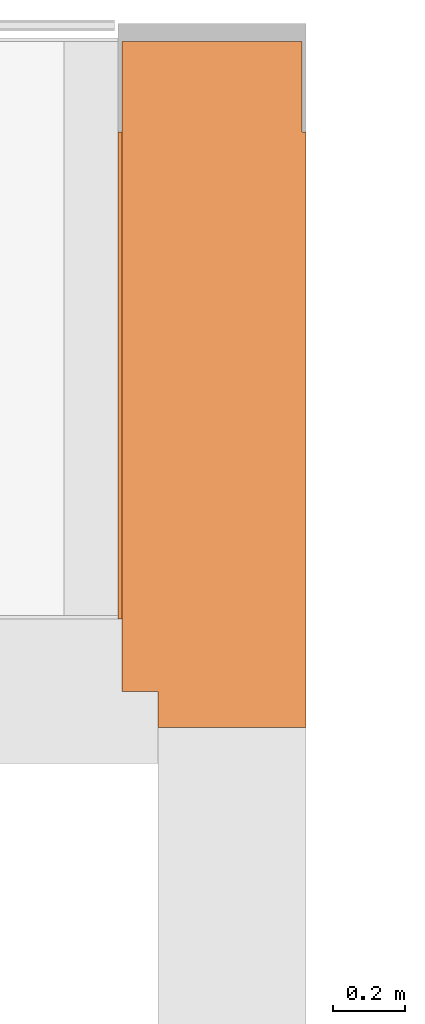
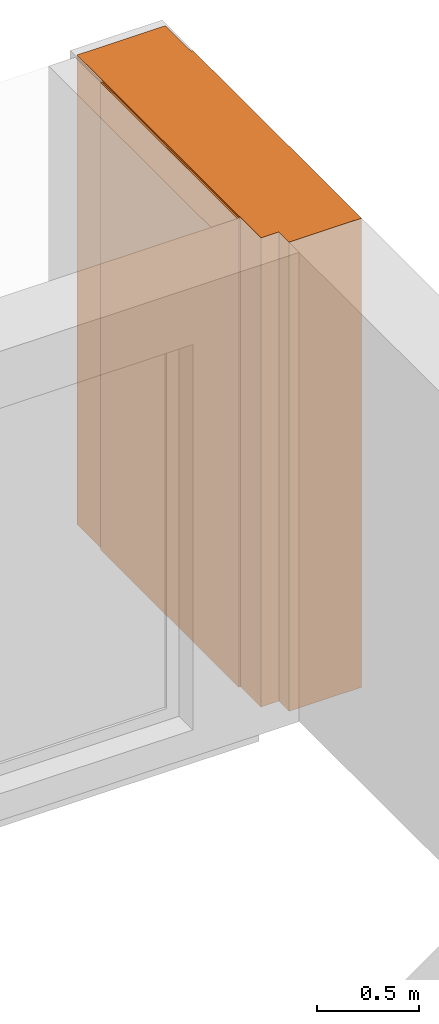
# One storey, part 61 of 61: 1 proxy, 1 opening.
"""IFC2X3 building model written with IfcOpenShell, lengths in millimetres."""

from ifc_helpers import new_model, entity, si_unit, converted_unit, derived_unit, money_unit, direction, frame, origin_with_axes, origin_2d_with_axis, place, context, subcontext, project, spatial, rectangle, extrude, faceted_brep, material, material_list, type_object, element, save


model = new_model("IFC2X3")

# Units and contexts
model_context = context("Model", 3, precision=0.01, world=origin_with_axes(), true_north=direction((0.34421633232, 0.938890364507)))
body_context = subcontext(model_context, "Body", "Model", "MODEL_VIEW")
ifc_project = project(units=[si_unit("LENGTHUNIT", "METRE", prefix="MILLI"), si_unit("AREAUNIT", "SQUARE_METRE"), si_unit("VOLUMEUNIT", "CUBIC_METRE"), converted_unit("PLANEANGLEUNIT", "DEGREE", entity("IfcPlaneAngleMeasure", 0.0174532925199), si_unit("PLANEANGLEUNIT", "RADIAN"), dimensions=[0, 0, 0, 0, 0, 0, 0]), si_unit("SOLIDANGLEUNIT", "STERADIAN"), money_unit("USD"), converted_unit("TIMEUNIT", "Year", entity("IfcTimeMeasure", 31556926.0), si_unit("TIMEUNIT", "SECOND"), dimensions=[0, 0, 1, 0, 0, 0, 0]), si_unit("MASSUNIT", "GRAM", prefix="KILO"), si_unit("THERMODYNAMICTEMPERATUREUNIT", "DEGREE_CELSIUS"), si_unit("LUMINOUSINTENSITYUNIT", "LUMEN"), si_unit("ENERGYUNIT", "JOULE", prefix="MEGA"), derived_unit("THERMALCONDUCTANCEUNIT", [(si_unit("POWERUNIT", "WATT"), 1), (si_unit("LENGTHUNIT", "METRE"), -1), (si_unit("THERMODYNAMICTEMPERATUREUNIT", "KELVIN"), -1)]), derived_unit("SPECIFICHEATCAPACITYUNIT", [(si_unit("ENERGYUNIT", "JOULE"), 1), (si_unit("MASSUNIT", "GRAM", prefix="KILO"), -1), (si_unit("THERMODYNAMICTEMPERATUREUNIT", "KELVIN"), -1)]), derived_unit("MASSDENSITYUNIT", [(si_unit("MASSUNIT", "GRAM", prefix="KILO"), 1), (si_unit("VOLUMEUNIT", "CUBIC_METRE"), -1)])], contexts=[model_context])

# Site, building, storey
site_placement = place(None, origin_with_axes())
site = spatial("IfcSite", under=ifc_project, at=site_placement, Name="USTRONIE MORSKIE", CompositionType="ELEMENT")
building_placement = place(site_placement, origin_with_axes())
building = spatial("IfcBuilding", under=site, at=building_placement, Name="Budynek", CompositionType="ELEMENT")
storey_placement = place(building_placement, frame((0.0, 0.0, 13000.0), z_axis=(0.0, 0.0, 1.0), x_axis=(1.0, 0.0, 0.0)))
storey = spatial("IfcBuildingStorey", under=building, at=storey_placement, Name="PIĘTRO 4", CompositionType="ELEMENT", Elevation=13000.0)

# Proxy, opening
ifc_material_1 = material(Name="Tynk zewnętrzny")
ifc_material_2 = material(Name="Wełna ELEW")
ifc_material_3 = material(Name="Beton konstrukcyjny B25")
ifc_material_list = material_list([ifc_material_1, ifc_material_2, ifc_material_3, ifc_material_2, ifc_material_1])
building_element_proxy_type = type_object("IfcBuildingElementProxyType", Name="BALKON bok 01 520", PredefinedType="NOTDEFINED")
proxy_placement = place(storey_placement, frame((425567.920919, 749451.184717, -160.000002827), z_axis=(0.0, 0.0, 1.0), x_axis=(0.0, 1.0, 0.0)))
proxy = element("IfcBuildingElementProxy", 1, at=proxy_placement, inside=storey, type_object=building_element_proxy_type, material=ifc_material_list, Name="Œciana-006", context=body_context, shape_type="Brep", body=[
    faceted_brep([(1950.01431967, 210.0, 2790.00000075), (1950.01431967, 200.0, 2790.00000075), (1950.01413776, 200.0, 0.0), (1950.01413776, 210.0, 0.0), (300.000168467, 200.0, 2790.00000075), (300.00017689, 210.0, 2790.00000075), (300.000168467, 200.0, 0.0), (300.00017689, 210.0, 1.64313007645e-09)], [[[0, 1, 2, 3]], [[4, 1, 0, 5]], [[1, 4, 6, 2]], [[2, 6, 7, 3]], [[5, 0, 3, 7]], [[4, 5, 7, 6]]]),
    faceted_brep([(100.000168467, 200.0, 2800.00000076), (100.000084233, 100.0, 2800.00000075), (1950.01413776, 100.0, 2800.00000075), (1950.01413776, 200.0, 2800.00000075), (100.000084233, 100.0, 2.68217270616e-06), (100.000168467, 200.0, 2.68292232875e-06), (1950.01413776, 100.0, 0.0), (1950.01413776, 200.0, 0.0)], [[[0, 1, 2, 3]], [[4, 1, 0, 5]], [[1, 4, 6, 2]], [[2, 6, 7, 3]], [[5, 0, 3, 7]], [[4, 5, 7, 6]]]),
    faceted_brep([(0.0, -100.0, 0.0), (0.0, 100.0, 0.0), (1950.01413776, 100.0, 0.0), (1950.01413776, -100.0, 0.0), (0.0, -100.0, 2800.00000075), (0.0, 100.0, 2800.00000075), (1950.01413776, 100.0, 2800.00000075), (1950.01413776, -100.0, 2800.00000075)], [[[0, 1, 2, 3]], [[4, 5, 1, 0]], [[1, 5, 6, 2]], [[7, 3, 2, 6]], [[4, 0, 3, 7]], [[5, 4, 7, 6]]]),
    faceted_brep([(0.0, -100.0, 0.0), (1950.01413776, -100.0, 0.0), (1950.01413776, -300.0, 0.0), (0.0, -300.0, 0.0), (0.0, -100.0, 2800.00000075), (1950.01413776, -100.0, 2800.00000075), (1950.01413776, -300.0, 2800.00000075), (0.0, -300.0, 2800.00000075)], [[[0, 1, 2, 3]], [[4, 5, 1, 0]], [[2, 1, 5, 6]], [[3, 2, 6, 7]], [[4, 0, 3, 7]], [[7, 6, 5, 4]]]),
    faceted_brep([(0.0, -300.0, 0.0), (1950.01413776, -300.0, 0.0), (1950.01413776, -310.0, 0.0), (0.0, -310.0, 0.0), (0.0, -300.0, 2800.00000075), (1950.01413776, -300.0, 2800.00000075), (1950.01413776, -310.0, 2800.00000075), (0.0, -310.0, 2800.00000075)], [[[0, 1, 2, 3]], [[4, 5, 1, 0]], [[2, 1, 5, 6]], [[3, 2, 6, 7]], [[4, 0, 3, 7]], [[7, 6, 5, 4]]]),
])
opening_placement = place(proxy_placement, frame((1950.01413776, 0.0, 0.0), z_axis=(0.0, 0.0, 1.0), x_axis=(1.0, 0.0, 0.0)))
element("IfcOpeningElement", 2, at=opening_placement, cuts=proxy, Name="ZS1", context=body_context, shape_type="SweptSolid", body=[
    extrude(rectangle(XDim=9.99999999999, YDim=50.0000000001, at=origin_2d_with_axis()), frame((-25.0000000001, 205.0, 0.0), z_axis=(0.0, 0.0, 1.0), x_axis=(0.0, -1.0, 0.0)), (0.0, 0.0, 1.0), 2800.00000075),
    extrude(rectangle(XDim=9.99999999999, YDim=250.0, at=origin_2d_with_axis()), frame((-175.0, 205.0, 0.0), z_axis=(0.0, 0.0, 1.0), x_axis=(0.0, -1.0, 0.0)), (0.0, 0.0, 1.0), 2800.00000075),
    extrude(rectangle(XDim=9.99999999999, YDim=50.0, at=origin_2d_with_axis()), frame((-25.0, -305.0, 0.0), z_axis=(0.0, 0.0, 1.0), x_axis=(0.0, -1.0, 0.0)), (0.0, 0.0, 1.0), 2800.00000075),
    extrude(rectangle(XDim=9.99999999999, YDim=250.0, at=origin_2d_with_axis()), frame((-175.0, -305.0, 0.0), z_axis=(0.0, 0.0, 1.0), x_axis=(0.0, -1.0, 0.0)), (0.0, 0.0, 1.0), 2800.00000075),
    extrude(rectangle(XDim=500.0, YDim=50.0000000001, at=origin_2d_with_axis()), frame((-25.0000000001, -50.0, 0.0), z_axis=(0.0, 0.0, 1.0), x_axis=(0.0, -1.0, 0.0)), (0.0, 0.0, 1.0), 2800.00000075),
])

save(model, "model.ifc")
